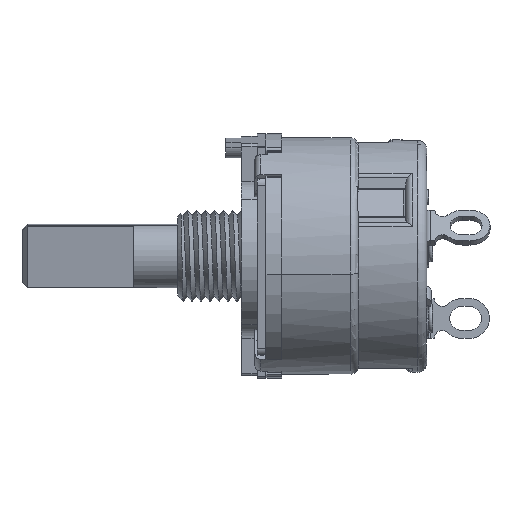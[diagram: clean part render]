
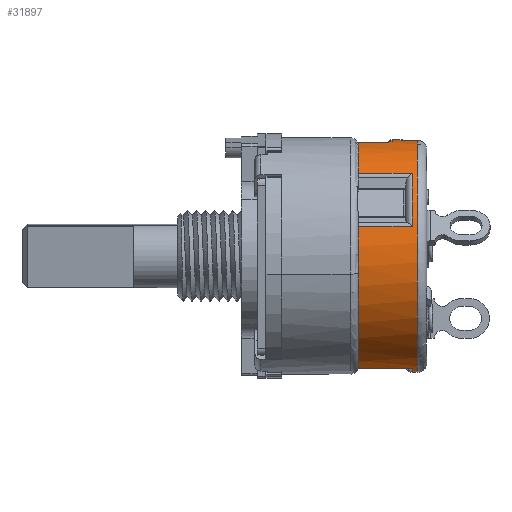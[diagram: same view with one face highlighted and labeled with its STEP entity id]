
A CAD part, left-side view. The second image highlights one B-rep face of the part: STEP entity #31897.
In plain terms, the highlighted cylindrical face has radius 11.608 mm (diameter 23.216 mm), a partial arc.
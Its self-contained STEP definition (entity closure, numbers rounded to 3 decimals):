
#188 = VECTOR ( 'NONE', #28401, 1000. ) ;
#267 = CARTESIAN_POINT ( 'NONE',  ( -2.717, 4.134, 11.285 ) ) ;
#330 = CIRCLE ( 'NONE', #15397, 11.608 ) ;
#351 = LINE ( 'NONE', #27718, #10445 ) ;
#702 = VERTEX_POINT ( 'NONE', #16300 ) ;
#739 = ORIENTED_EDGE ( 'NONE', *, *, #8544, .T. ) ;
#777 = VERTEX_POINT ( 'NONE', #17438 ) ;
#1289 = AXIS2_PLACEMENT_3D ( 'NONE', #21090, #25831, #16338 ) ;
#1346 = DIRECTION ( 'NONE',  ( 0., 0., 1. ) ) ;
#1461 = DIRECTION ( 'NONE',  ( 0., -1., 0. ) ) ;
#1911 = ORIENTED_EDGE ( 'NONE', *, *, #17596, .T. ) ;
#1916 = CARTESIAN_POINT ( 'NONE',  ( -11.228, 1.448, 2.945 ) ) ;
#1995 = AXIS2_PLACEMENT_3D ( 'NONE', #23531, #18484, #23372 ) ;
#2501 = EDGE_CURVE ( 'NONE', #16634, #30211, #20013, .T. ) ;
#2709 = CARTESIAN_POINT ( 'NONE',  ( 0., 0.965, 0. ) ) ;
#2797 = CARTESIAN_POINT ( 'NONE',  ( -8.164, 0.457, 8.251 ) ) ;
#2934 = CARTESIAN_POINT ( 'NONE',  ( -3.064, 1.448, -11.196 ) ) ;
#3198 = DIRECTION ( 'NONE',  ( 0., 1., 0. ) ) ;
#3260 = CARTESIAN_POINT ( 'NONE',  ( 0., 2.565, 11.608 ) ) ;
#3407 = VERTEX_POINT ( 'NONE', #3260 ) ;
#3844 = LINE ( 'NONE', #13753, #29740 ) ;
#4264 = DIRECTION ( 'NONE',  ( 0., -1., 0. ) ) ;
#4409 = DIRECTION ( 'NONE',  ( 0., -1., 0. ) ) ;
#4577 = EDGE_CURVE ( 'NONE', #15483, #21051, #25722, .T. ) ;
#4683 = CARTESIAN_POINT ( 'NONE',  ( -2.422, 3.668, 11.353 ) ) ;
#4687 = CARTESIAN_POINT ( 'NONE',  ( -2.717, 4.216, 11.285 ) ) ;
#5778 = DIRECTION ( 'NONE',  ( 0., 0., 1. ) ) ;
#6118 = ORIENTED_EDGE ( 'NONE', *, *, #25160, .T. ) ;
#6316 = VERTEX_POINT ( 'NONE', #1916 ) ;
#6595 = VERTEX_POINT ( 'NONE', #31196 ) ;
#6804 = CARTESIAN_POINT ( 'NONE',  ( -8.164, 6.807, 8.251 ) ) ;
#6830 = CARTESIAN_POINT ( 'NONE',  ( -3.064, 0.457, -11.196 ) ) ;
#7286 = CARTESIAN_POINT ( 'NONE',  ( -2.584, 3.841, 11.317 ) ) ;
#7589 = B_SPLINE_CURVE_WITH_KNOTS ( 'NONE', 3,
 ( #12637, #22110, #22594, #32027, #9724, #12482, #4683, #7286, #29419, #32191, #267, #17215 ),
 .UNSPECIFIED., .F., .F.,
 ( 4, 2, 2, 2, 2, 4 ),
 ( 0., 0., 0.001, 0.001, 0.002, 0.002 ),
 .UNSPECIFIED. ) ;
#7612 = DIRECTION ( 'NONE',  ( 0., 1., 0. ) ) ;
#8527 = CARTESIAN_POINT ( 'NONE',  ( 0., 0.457, 11.608 ) ) ;
#8544 = EDGE_CURVE ( 'NONE', #15483, #26790, #10773, .T. ) ;
#8902 = CARTESIAN_POINT ( 'NONE',  ( -2.717, 0.457, 11.285 ) ) ;
#8978 = CARTESIAN_POINT ( 'NONE',  ( 0., 1.448, 0. ) ) ;
#9330 = CARTESIAN_POINT ( 'NONE',  ( -11.228, 6.807, 2.945 ) ) ;
#9724 = CARTESIAN_POINT ( 'NONE',  ( -1.99, 3.457, 11.437 ) ) ;
#9729 = CARTESIAN_POINT ( 'NONE',  ( -2.717, 6.807, 11.285 ) ) ;
#9925 = DIRECTION ( 'NONE',  ( 0., 0., 1. ) ) ;
#9976 = ORIENTED_EDGE ( 'NONE', *, *, #13639, .T. ) ;
#10253 = CIRCLE ( 'NONE', #13868, 11.608 ) ;
#10301 = ORIENTED_EDGE ( 'NONE', *, *, #15822, .T. ) ;
#10363 = LINE ( 'NONE', #27489, #15212 ) ;
#10445 = VECTOR ( 'NONE', #15305, 1000. ) ;
#10517 = DIRECTION ( 'NONE',  ( 0., 1., 0. ) ) ;
#10646 = CARTESIAN_POINT ( 'NONE',  ( 0., 1.448, -11.608 ) ) ;
#10773 = LINE ( 'NONE', #2797, #11657 ) ;
#11066 = EDGE_CURVE ( 'NONE', #16634, #28351, #21654, .T. ) ;
#11657 = VECTOR ( 'NONE', #17626, 1000. ) ;
#11752 = DIRECTION ( 'NONE',  ( 0., -1., 0. ) ) ;
#11835 = AXIS2_PLACEMENT_3D ( 'NONE', #31945, #11752, #21870 ) ;
#12350 = CARTESIAN_POINT ( 'NONE',  ( 0., 2.565, 0. ) ) ;
#12482 = CARTESIAN_POINT ( 'NONE',  ( -2.283, 3.583, 11.382 ) ) ;
#12535 = ORIENTED_EDGE ( 'NONE', *, *, #25623, .F. ) ;
#12637 = CARTESIAN_POINT ( 'NONE',  ( -1.209, 3.353, 11.545 ) ) ;
#13014 = EDGE_CURVE ( 'NONE', #25111, #702, #10253, .T. ) ;
#13639 = EDGE_CURVE ( 'NONE', #26790, #6316, #27453, .T. ) ;
#13684 = EDGE_LOOP ( 'NONE', ( #12535, #1911, #23201, #31299, #20615, #739, #9976, #10301, #16217, #23783, #30564, #6118, #27472, #25073, #27687 ) ) ;
#13753 = CARTESIAN_POINT ( 'NONE',  ( -11.228, 0.457, 2.945 ) ) ;
#13868 = AXIS2_PLACEMENT_3D ( 'NONE', #2709, #10517, #15707 ) ;
#14835 = VECTOR ( 'NONE', #18835, 1000. ) ;
#14922 = EDGE_CURVE ( 'NONE', #777, #702, #351, .T. ) ;
#15212 = VECTOR ( 'NONE', #27646, 1000. ) ;
#15305 = DIRECTION ( 'NONE',  ( 0., -1., 0. ) ) ;
#15397 = AXIS2_PLACEMENT_3D ( 'NONE', #8978, #4409, #5778 ) ;
#15483 = VERTEX_POINT ( 'NONE', #6804 ) ;
#15515 = CIRCLE ( 'NONE', #29574, 11.608 ) ;
#15691 = FACE_OUTER_BOUND ( 'NONE', #13684, .T. ) ;
#15707 = DIRECTION ( 'NONE',  ( 0., 0., 1. ) ) ;
#15809 = AXIS2_PLACEMENT_3D ( 'NONE', #22446, #7612, #20483 ) ;
#15822 = EDGE_CURVE ( 'NONE', #6316, #30211, #3844, .T. ) ;
#16217 = ORIENTED_EDGE ( 'NONE', *, *, #2501, .F. ) ;
#16300 = CARTESIAN_POINT ( 'NONE',  ( -1.321, 0.965, 11.532 ) ) ;
#16338 = DIRECTION ( 'NONE',  ( 0., 0., 1. ) ) ;
#16634 = VERTEX_POINT ( 'NONE', #30123 ) ;
#16726 = AXIS2_PLACEMENT_3D ( 'NONE', #19090, #4264, #1346 ) ;
#17215 = CARTESIAN_POINT ( 'NONE',  ( -2.717, 4.216, 11.285 ) ) ;
#17438 = CARTESIAN_POINT ( 'NONE',  ( -1.321, 2.565, 11.532 ) ) ;
#17596 = EDGE_CURVE ( 'NONE', #18164, #6595, #20982, .T. ) ;
#17626 = DIRECTION ( 'NONE',  ( 0., -1., 0. ) ) ;
#18164 = VERTEX_POINT ( 'NONE', #28123 ) ;
#18484 = DIRECTION ( 'NONE',  ( 0., -1., 0. ) ) ;
#18835 = DIRECTION ( 'NONE',  ( 0., 1., 0. ) ) ;
#19090 = CARTESIAN_POINT ( 'NONE',  ( 0., 3.353, 0. ) ) ;
#19888 = EDGE_CURVE ( 'NONE', #6595, #25027, #7589, .T. ) ;
#20013 = CIRCLE ( 'NONE', #1289, 11.608 ) ;
#20483 = DIRECTION ( 'NONE',  ( 0., 0., 1. ) ) ;
#20615 = ORIENTED_EDGE ( 'NONE', *, *, #4577, .F. ) ;
#20963 = LINE ( 'NONE', #8902, #14835 ) ;
#20982 = CIRCLE ( 'NONE', #16726, 11.608 ) ;
#21051 = VERTEX_POINT ( 'NONE', #9729 ) ;
#21090 = CARTESIAN_POINT ( 'NONE',  ( 0., 6.807, 0. ) ) ;
#21654 = LINE ( 'NONE', #6830, #22790 ) ;
#21870 = DIRECTION ( 'NONE',  ( 0., 0., 1. ) ) ;
#22110 = CARTESIAN_POINT ( 'NONE',  ( -1.369, 3.353, 11.528 ) ) ;
#22312 = DIRECTION ( 'NONE',  ( 0., 1., 0. ) ) ;
#22446 = CARTESIAN_POINT ( 'NONE',  ( 0., 6.807, 0. ) ) ;
#22594 = CARTESIAN_POINT ( 'NONE',  ( -1.527, 3.364, 11.508 ) ) ;
#22790 = VECTOR ( 'NONE', #1461, 1000. ) ;
#23201 = ORIENTED_EDGE ( 'NONE', *, *, #19888, .T. ) ;
#23372 = DIRECTION ( 'NONE',  ( 0., 0., -1. ) ) ;
#23391 = EDGE_CURVE ( 'NONE', #777, #3407, #15515, .T. ) ;
#23531 = CARTESIAN_POINT ( 'NONE',  ( 0., 0.457, 0. ) ) ;
#23783 = ORIENTED_EDGE ( 'NONE', *, *, #11066, .T. ) ;
#24441 = VERTEX_POINT ( 'NONE', #10646 ) ;
#25027 = VERTEX_POINT ( 'NONE', #4687 ) ;
#25073 = ORIENTED_EDGE ( 'NONE', *, *, #14922, .F. ) ;
#25111 = VERTEX_POINT ( 'NONE', #25204 ) ;
#25160 = EDGE_CURVE ( 'NONE', #24441, #25111, #10363, .T. ) ;
#25204 = CARTESIAN_POINT ( 'NONE',  ( 0., 0.965, -11.608 ) ) ;
#25623 = EDGE_CURVE ( 'NONE', #18164, #3407, #25816, .T. ) ;
#25665 = CYLINDRICAL_SURFACE ( 'NONE', #1995, 11.608 ) ;
#25722 = CIRCLE ( 'NONE', #15809, 11.608 ) ;
#25816 = LINE ( 'NONE', #8527, #188 ) ;
#25831 = DIRECTION ( 'NONE',  ( 0., 1., 0. ) ) ;
#26790 = VERTEX_POINT ( 'NONE', #28568 ) ;
#27453 = CIRCLE ( 'NONE', #11835, 11.608 ) ;
#27472 = ORIENTED_EDGE ( 'NONE', *, *, #13014, .T. ) ;
#27489 = CARTESIAN_POINT ( 'NONE',  ( 0., 0.457, -11.608 ) ) ;
#27587 = EDGE_CURVE ( 'NONE', #25027, #21051, #20963, .T. ) ;
#27646 = DIRECTION ( 'NONE',  ( 0., -1., 0. ) ) ;
#27687 = ORIENTED_EDGE ( 'NONE', *, *, #23391, .T. ) ;
#27718 = CARTESIAN_POINT ( 'NONE',  ( -1.321, 2.184, 11.532 ) ) ;
#27994 = EDGE_CURVE ( 'NONE', #28351, #24441, #330, .T. ) ;
#28123 = CARTESIAN_POINT ( 'NONE',  ( 0., 3.353, 11.608 ) ) ;
#28351 = VERTEX_POINT ( 'NONE', #2934 ) ;
#28401 = DIRECTION ( 'NONE',  ( 0., -1., 0. ) ) ;
#28568 = CARTESIAN_POINT ( 'NONE',  ( -8.164, 1.448, 8.251 ) ) ;
#29419 = CARTESIAN_POINT ( 'NONE',  ( -2.632, 3.907, 11.306 ) ) ;
#29574 = AXIS2_PLACEMENT_3D ( 'NONE', #12350, #22312, #9925 ) ;
#29740 = VECTOR ( 'NONE', #3198, 1000. ) ;
#30123 = CARTESIAN_POINT ( 'NONE',  ( -3.064, 6.807, -11.196 ) ) ;
#30211 = VERTEX_POINT ( 'NONE', #9330 ) ;
#30564 = ORIENTED_EDGE ( 'NONE', *, *, #27994, .T. ) ;
#31196 = CARTESIAN_POINT ( 'NONE',  ( -1.209, 3.353, 11.545 ) ) ;
#31299 = ORIENTED_EDGE ( 'NONE', *, *, #27587, .T. ) ;
#31897 = ADVANCED_FACE ( 'NONE', ( #15691 ), #25665, .T. ) ;
#31945 = CARTESIAN_POINT ( 'NONE',  ( 0., 1.448, 0. ) ) ;
#32027 = CARTESIAN_POINT ( 'NONE',  ( -1.837, 3.417, 11.463 ) ) ;
#32191 = CARTESIAN_POINT ( 'NONE',  ( -2.698, 4.054, 11.29 ) ) ;
